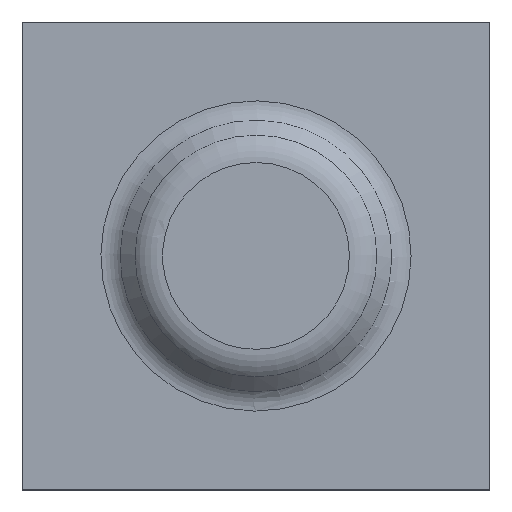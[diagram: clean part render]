
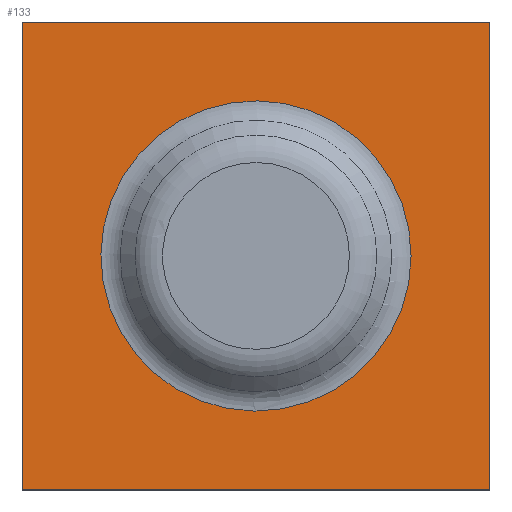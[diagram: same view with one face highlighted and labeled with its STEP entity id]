
A CAD part, top view. The second image highlights one B-rep face of the part: STEP entity #133.
In plain terms, the highlighted planar face has unit normal (0, 0, 1).
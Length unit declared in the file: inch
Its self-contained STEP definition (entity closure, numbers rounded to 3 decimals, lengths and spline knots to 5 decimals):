
#34=CARTESIAN_POINT('',(-6.52797,3.52497,14.56893));
#35=VERTEX_POINT('',#34);
#42=CARTESIAN_POINT('',(-6.52797,2.02497,14.56893));
#43=VERTEX_POINT('',#42);
#44=CARTESIAN_POINT('',(-6.52797,0.,14.56893));
#45=DIRECTION('',(0.,1.,0.));
#46=VECTOR('',#45,1.);
#47=LINE('',#44,#46);
#48=EDGE_CURVE('',#43,#35,#47,.T.);
#73=CARTESIAN_POINT('',(-8.02797,2.02497,14.56893));
#74=VERTEX_POINT('',#73);
#75=CARTESIAN_POINT('',(0.,2.02497,14.56893));
#76=DIRECTION('',(1.,0.,0.));
#77=VECTOR('',#76,1.);
#78=LINE('',#75,#77);
#79=EDGE_CURVE('',#74,#43,#78,.T.);
#95=ORIENTED_EDGE('',*,*,#79,.T.);
#96=ORIENTED_EDGE('',*,*,#48,.T.);
#97=CARTESIAN_POINT('',(-8.02797,3.52497,14.56893));
#98=VERTEX_POINT('',#97);
#99=CARTESIAN_POINT('',(0.,3.52497,14.56893));
#100=DIRECTION('',(-1.,0.,0.));
#101=VECTOR('',#100,1.);
#102=LINE('',#99,#101);
#103=EDGE_CURVE('',#35,#98,#102,.T.);
#104=ORIENTED_EDGE('',*,*,#103,.T.);
#105=CARTESIAN_POINT('',(-8.02797,0.,14.56893));
#106=DIRECTION('',(0.,-1.,0.));
#107=VECTOR('',#106,1.);
#108=LINE('',#105,#107);
#109=EDGE_CURVE('',#98,#74,#108,.T.);
#110=ORIENTED_EDGE('',*,*,#109,.T.);
#111=EDGE_LOOP('',(#95,#96,#104,#110));
#112=FACE_OUTER_BOUND('',#111,.T.);
#113=CARTESIAN_POINT('',(-7.27797,2.27783,14.56893));
#114=VERTEX_POINT('',#113);
#115=CARTESIAN_POINT('',(-7.28665,2.27791,14.56893));
#116=VERTEX_POINT('',#115);
#117=CARTESIAN_POINT('',(-7.27797,2.77497,14.56893));
#118=DIRECTION('',(0.,0.,-1.));
#119=DIRECTION('',(0.,1.,0.));
#120=AXIS2_PLACEMENT_3D('',#117,#118,#119);
#121=CIRCLE('',#120,0.49713);
#122=EDGE_CURVE('',#114,#116,#121,.T.);
#123=ORIENTED_EDGE('',*,*,#122,.T.);
#124=EDGE_CURVE('',#116,#114,#121,.T.);
#125=ORIENTED_EDGE('',*,*,#124,.T.);
#126=EDGE_LOOP('',(#123,#125));
#127=FACE_BOUND('',#126,.T.);
#128=CARTESIAN_POINT('',(-6.06577,8.16497,14.56893));
#129=DIRECTION('',(0.,0.,-1.));
#130=DIRECTION('',(0.,1.,0.));
#131=AXIS2_PLACEMENT_3D('',#128,#129,#130);
#132=PLANE('',#131);
#133=ADVANCED_FACE('',(#112,#127),#132,.F.);
